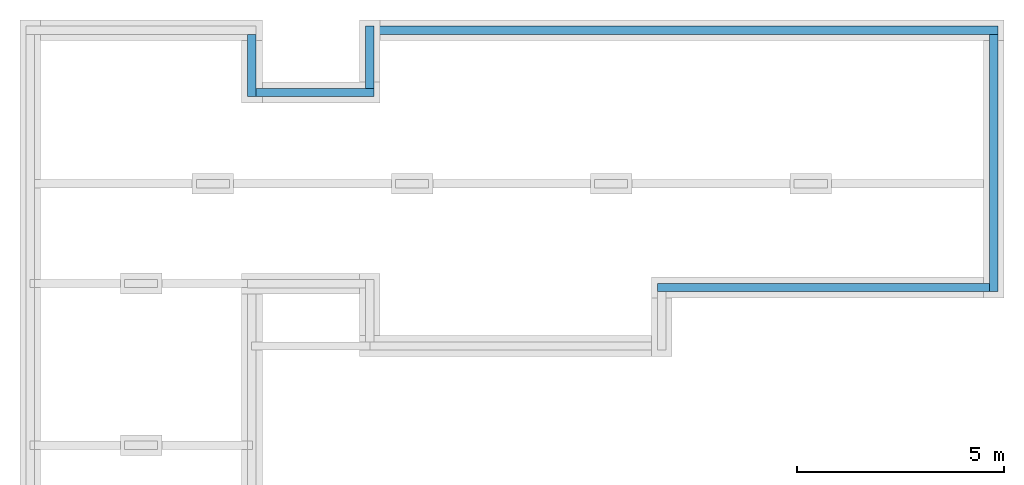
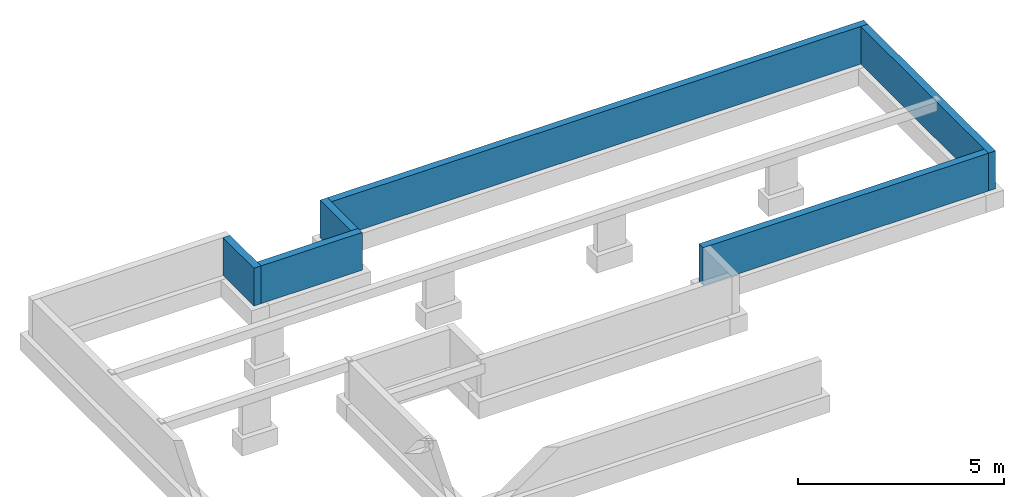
# One storey, part 2 of 2: 6 walls.
"""IFC2X3 building model written with IfcOpenShell, lengths in metres."""

import ifcopenshell
import ifcopenshell.guid

model = None  # the IFC model being written
_history = None  # IfcOwnerHistory: only IFC2X3 demands one
_inside = {}  # id of a spatial element -> (the spatial element, [elements in it])
_under = {}  # id of a project, library or spatial element -> (it, [spatial elements below it])
_declared = {}  # id of a project -> (the project, [libraries it declares])
_typed = {}  # id of a type object -> (the type object, [elements of that type])
_made_of = {}  # id of a material, layer set ... -> (it, [elements and type objects made of it])


def new_model(schema):
    """Start an empty IFC model of exactly this schema.

    Asked for "IFC4X3", IfcOpenShell would pick the latest addendum, in which some entities
    have other attributes; the version numbers below select the first issue.
    IFC2X3 requires an IfcOwnerHistory on every rooted entity: one is made here for all.
    """
    global model, _history
    if schema == "IFC4X3":
        model = ifcopenshell.file(schema_version=(4, 3, 0, 0))
    else:
        model = ifcopenshell.file(schema=schema)
    _inside.clear()
    _under.clear()
    _declared.clear()
    _typed.clear()
    _made_of.clear()
    _history = None
    if model.schema == "IFC2X3":
        org = make("IfcOrganization", Name="unknown")
        user = make(
            "IfcPersonAndOrganization",
            ThePerson=make("IfcPerson", FamilyName="unknown"),
            TheOrganization=org,
        )
        app = make(
            "IfcApplication",
            ApplicationDeveloper=org,
            Version="unknown",
            ApplicationFullName="unknown",
            ApplicationIdentifier="unknown",
        )
        _history = make(
            "IfcOwnerHistory",
            OwningUser=user,
            OwningApplication=app,
            ChangeAction="ADDED",
            CreationDate=0,
        )
    return model


def make(cls, **values):
    """One entity of the class cls with the attributes given. An attribute that is None is left unset."""
    return model.create_entity(
        cls, **{name: value for name, value in values.items() if value is not None}
    )


def entity(cls, *values):
    """Any entity or typed value of the class cls, its attributes in the order of the schema. None: left unset."""
    e = model.create_entity(cls)
    for i, value in enumerate(values):
        if value is not None:
            e[i] = value
    return e


def rooted(cls, **values):
    """An entity with a GlobalId (a new one), such as an element, a storey or a relation."""
    return make(cls, GlobalId=ifcopenshell.guid.new(), OwnerHistory=_history, **values)


def si_unit(unit_type, name, prefix=None):
    """IfcSIUnit, for example si_unit("LENGTHUNIT", "METRE", prefix="MILLI")."""
    return make("IfcSIUnit", UnitType=unit_type, Prefix=prefix, Name=name)


def converted_unit(unit_type, name, factor, base, dimensions=None, offset=None):
    """IfcConversionBasedUnit, such as the inch: factor (a typed value) times the base unit."""
    return make(
        "IfcConversionBasedUnit"
        if offset is None
        else "IfcConversionBasedUnitWithOffset",
        ConversionOffset=offset,
        Dimensions=None
        if dimensions is None
        else entity("IfcDimensionalExponents", *dimensions),
        UnitType=unit_type,
        Name=name,
        ConversionFactor=make(
            "IfcMeasureWithUnit", ValueComponent=factor, UnitComponent=base
        ),
    )


def derived_unit(unit_type, elements):
    """IfcDerivedUnit: a product of units, each with its exponent."""
    return make(
        "IfcDerivedUnit",
        Elements=[
            make("IfcDerivedUnitElement", Unit=unit, Exponent=power)
            for unit, power in elements
        ],
        UnitType=unit_type,
    )


def assignment(units):
    """IfcUnitAssignment: the units of a project."""
    return None if units is None else make("IfcUnitAssignment", Units=units)


def point(xyz):
    """IfcCartesianPoint."""
    return None if xyz is None else make("IfcCartesianPoint", Coordinates=xyz)


def direction(xyz):
    """IfcDirection."""
    return None if xyz is None else make("IfcDirection", DirectionRatios=xyz)


def frame(location, z_axis=None, x_axis=None):
    """IfcAxis2Placement3D, a coordinate frame: its origin and axes. An axis left out is left unset."""
    return make(
        "IfcAxis2Placement3D",
        Location=point(location),
        Axis=direction(z_axis),
        RefDirection=direction(x_axis),
    )


def frame_2d(location, x_axis=None):
    """IfcAxis2Placement2D, a coordinate frame in the plane: its origin and x axis."""
    return make(
        "IfcAxis2Placement2D", Location=point(location), RefDirection=direction(x_axis)
    )


def origin():
    """The frame at (0, 0, 0) with its axes left unset."""
    return frame((0.0, 0.0, 0.0))


def place(relative_to, where):
    """IfcLocalPlacement: puts the frame where relative to a parent placement (None: the world)."""
    return make(
        "IfcLocalPlacement", PlacementRelTo=relative_to, RelativePlacement=where
    )


def context(
    kind, dimensions, precision=None, world=None, true_north=None, identifier=None
):
    """IfcGeometricRepresentationContext, for example the 3D "Model" context."""
    return make(
        "IfcGeometricRepresentationContext",
        ContextIdentifier=identifier,
        ContextType=kind,
        CoordinateSpaceDimension=dimensions,
        Precision=precision,
        WorldCoordinateSystem=world,
        TrueNorth=true_north,
    )


def subcontext(parent, identifier, kind, view, scale=None):
    """IfcGeometricRepresentationSubContext, for example "Body" below "Model"."""
    return make(
        "IfcGeometricRepresentationSubContext",
        ContextIdentifier=identifier,
        ContextType=kind,
        ParentContext=parent,
        TargetScale=scale,
        TargetView=view,
    )


def project(units=None, contexts=None):
    """IfcProject with its units and contexts."""
    return rooted(
        "IfcProject",
        Name="project",
        RepresentationContexts=contexts,
        UnitsInContext=assignment(units),
    )


def spatial(cls, under=None, at=None, **own):
    """A site, building, storey or space (cls), placed at a placement, below another one or the project."""
    s = rooted(cls, ObjectPlacement=at, **own)
    if under is not None:
        _under.setdefault(under.id(), (under, []))[1].append(s)
    return s


def profile(cls, at=None, kind="AREA", **sizes):
    """A parametric profile (cls). Its sizes go by their IFC names, for example OverallWidth=200.0."""
    return make(cls, ProfileType=kind, Position=at, **sizes)


def rectangle(**sizes):
    """IfcRectangleProfileDef."""
    return profile("IfcRectangleProfileDef", **sizes)


def extrude(swept, where, along, depth):
    """IfcExtrudedAreaSolid: the profile swept, set in the frame where, extruded along a direction by depth."""
    return make(
        "IfcExtrudedAreaSolid",
        SweptArea=swept,
        Position=where,
        ExtrudedDirection=direction(along),
        Depth=depth,
    )


def shape(context_of_items, identifier, shape_type, items):
    """IfcShapeRepresentation: the items that make up one representation, for example the "Body"."""
    return make(
        "IfcShapeRepresentation",
        ContextOfItems=context_of_items,
        RepresentationIdentifier=identifier,
        RepresentationType=shape_type,
        Items=items,
    )


def material(Name=None, Category=None):
    """IfcMaterial."""
    return make("IfcMaterial", Name=Name, Category=Category)


def layer(
    of_material, thickness, ventilated=None, Name=None, Category=None, Priority=None
):
    """IfcMaterialLayer: one layer of a wall or slab, of a material (None: an air gap)."""
    return make(
        "IfcMaterialLayer",
        Material=of_material,
        LayerThickness=thickness,
        IsVentilated=ventilated,
        Name=Name,
        Category=Category,
        Priority=Priority,
    )


def layer_set(layers, Name=None):
    """IfcMaterialLayerSet."""
    return make("IfcMaterialLayerSet", MaterialLayers=layers, LayerSetName=Name)


def layer_usage(for_layer_set, set_direction, sense, offset, extent=None):
    """IfcMaterialLayerSetUsage: how a layer set lies in its element."""
    return make(
        "IfcMaterialLayerSetUsage",
        ForLayerSet=for_layer_set,
        LayerSetDirection=set_direction,
        DirectionSense=sense,
        OffsetFromReferenceLine=offset,
        ReferenceExtent=extent,
    )


def made_of(thing, what):
    """Note that an element or type object is made of a material, layer set ...; save() writes the relation."""
    if what is not None:
        _made_of.setdefault(what.id(), (what, []))[1].append(thing)
    return thing


def type_object(cls, material=None, **own):
    """A type object (cls), such as IfcWallType, which elements share."""
    return made_of(rooted(cls, **own), material)


def element(
    cls,
    number,
    at=None,
    inside=None,
    cuts=None,
    type_object=None,
    material=None,
    context=None,
    identifier="Body",
    shape_type=None,
    held_by="IfcProductDefinitionShape",
    body=None,
    shapes=None,
    **own,
):
    """One element of the class cls, such as IfcWall. Its Tag is "e" and its number.

    at: its placement. inside: the storey or other place that contains it. cuts: it is an
    opening in that element (IfcRelVoidsElement). A single representation is given by context,
    identifier, shape_type and body (its items); several are given by shapes. held_by: the class
    of the entity that holds the representations. save() writes the other relations.
    """
    e = rooted(cls, Tag="e%d" % number, ObjectPlacement=at, **own)
    if body is not None:
        shapes = [shape(context, identifier, shape_type, body)]
    if shapes is not None:
        e.Representation = make(held_by, Representations=shapes)
    if inside is not None:
        _inside.setdefault(inside.id(), (inside, []))[1].append(e)
    if cuts is not None:
        rooted(
            "IfcRelVoidsElement", RelatingBuildingElement=cuts, RelatedOpeningElement=e
        )
    if type_object is not None:
        _typed.setdefault(type_object.id(), (type_object, []))[1].append(e)
    return made_of(e, material)


def aggregate(whole, parts):
    """IfcRelAggregates: a whole, such as a stair, and the parts it consists of."""
    return rooted("IfcRelAggregates", RelatingObject=whole, RelatedObjects=parts)


def save(model, path):
    """Write the relations noted so far, then the file.

    IfcRelAggregates (storeys below a building ...), IfcRelContainedInSpatialStructure (elements
    in a storey), IfcRelDefinesByType, IfcRelAssociatesMaterial and IfcRelDeclares: one each for
    every whole, place, type object, material and project.
    """
    for whole, parts in _under.values():
        aggregate(whole, parts)
    for where, things in _inside.values():
        rooted(
            "IfcRelContainedInSpatialStructure",
            RelatedElements=things,
            RelatingStructure=where,
        )
    for kind, things in _typed.values():
        rooted("IfcRelDefinesByType", RelatedObjects=things, RelatingType=kind)
    for what, things in _made_of.values():
        rooted("IfcRelAssociatesMaterial", RelatedObjects=things, RelatingMaterial=what)
    for by, libraries in _declared.values():
        rooted("IfcRelDeclares", RelatingContext=by, RelatedDefinitions=libraries)
    model.write(path)


model = new_model("IFC2X3")

# Units and contexts
model_context = context("Model", 3, precision=1e-05, world=origin(), true_north=direction((6.12303176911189e-17, 1.0)))
body_context = subcontext(model_context, "Body", "Model", "MODEL_VIEW")
ifc_project = project(units=[si_unit("LENGTHUNIT", "METRE"), si_unit("AREAUNIT", "SQUARE_METRE"), si_unit("VOLUMEUNIT", "CUBIC_METRE"), converted_unit("PLANEANGLEUNIT", "DEGREE", entity("IfcRatioMeasure", 0.0174532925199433), si_unit("PLANEANGLEUNIT", "RADIAN"), dimensions=[0, 0, 0, 0, 0, 0, 0]), si_unit("MASSUNIT", "GRAM", prefix="KILO"), derived_unit("MASSDENSITYUNIT", [(si_unit("MASSUNIT", "GRAM", prefix="KILO"), 1), (si_unit("LENGTHUNIT", "METRE"), -3)]), si_unit("TIMEUNIT", "SECOND"), si_unit("FREQUENCYUNIT", "HERTZ"), si_unit("THERMODYNAMICTEMPERATUREUNIT", "DEGREE_CELSIUS"), derived_unit("THERMALTRANSMITTANCEUNIT", [(si_unit("MASSUNIT", "GRAM", prefix="KILO"), 1), (si_unit("THERMODYNAMICTEMPERATUREUNIT", "KELVIN"), -1), (si_unit("TIMEUNIT", "SECOND"), -3)]), derived_unit("VOLUMETRICFLOWRATEUNIT", [(si_unit("LENGTHUNIT", "METRE"), 3), (si_unit("TIMEUNIT", "SECOND"), -1)]), si_unit("ELECTRICCURRENTUNIT", "AMPERE"), si_unit("ELECTRICVOLTAGEUNIT", "VOLT"), si_unit("POWERUNIT", "WATT"), si_unit("FORCEUNIT", "NEWTON", prefix="KILO"), si_unit("ILLUMINANCEUNIT", "LUX"), si_unit("LUMINOUSFLUXUNIT", "LUMEN"), si_unit("LUMINOUSINTENSITYUNIT", "CANDELA"), derived_unit("USERDEFINED", [(si_unit("MASSUNIT", "GRAM", prefix="KILO"), -1), (si_unit("LENGTHUNIT", "METRE"), -2), (si_unit("TIMEUNIT", "SECOND"), 3), (si_unit("LUMINOUSFLUXUNIT", "LUMEN"), 1)]), derived_unit("LINEARVELOCITYUNIT", [(si_unit("LENGTHUNIT", "METRE"), 1), (si_unit("TIMEUNIT", "SECOND"), -1)]), si_unit("PRESSUREUNIT", "PASCAL"), derived_unit("USERDEFINED", [(si_unit("LENGTHUNIT", "METRE"), -2), (si_unit("MASSUNIT", "GRAM", prefix="KILO"), 1), (si_unit("TIMEUNIT", "SECOND"), -2)])], contexts=[model_context])

# Site, building, storey
site_placement = place(None, origin())
site = spatial("IfcSite", under=ifc_project, at=site_placement, Name="Default", CompositionType="ELEMENT")
building_placement = place(site_placement, origin())
building = spatial("IfcBuilding", under=site, at=building_placement, CompositionType="ELEMENT")
storey_placement = place(building_placement, frame((0.0, 0.0, -1.43)))
storey = spatial("IfcBuildingStorey", under=building, at=storey_placement, Name="1 - Fondations", CompositionType="ELEMENT", Elevation=-1.43)

# Walls
ifc_material = material(Name="Blocs béton manufacturés")
ifc_layer = layer(ifc_material, 0.2)
ifc_layer_set = layer_set([ifc_layer], Name="Mur de base:Parpaing 20 Enduit bitumineux")
ifc_layer_usage_1 = layer_usage(ifc_layer_set, "AXIS2", "NEGATIVE", 0.1)
wall_type = type_object("IfcWallType", Name="Mur de base:Parpaing 20 Enduit bitumineux", PredefinedType="STANDARD", material=ifc_layer_set)
wall_1_placement = place(storey_placement, frame((-4.4762224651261, 6.41805500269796, 0.0), z_axis=(0.0, 0.0, 1.0), x_axis=(0.0, -1.0, 0.0)))
element("IfcWallStandardCase", 1, at=wall_1_placement, inside=storey, type_object=wall_type, material=ifc_layer_usage_1, Name="Mur de base:Parpaing 20 Enduit bitumineux", ObjectType="Mur de base:Parpaing 20 Enduit bitumineux", context=body_context, shape_type="SweptSolid", body=[
    extrude(rectangle(XDim=1.5, YDim=0.2, at=frame_2d((0.750000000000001, 0.0), x_axis=(-1.0, 0.0))), origin(), (0.0, 0.0, 1.0), 1.11999999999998),
])
ifc_layer_usage_2 = layer_usage(ifc_layer_set, "AXIS2", "NEGATIVE", 0.1)
wall_2_placement = place(storey_placement, frame((-4.37622246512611, 5.01805500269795, 0.0)))
element("IfcWallStandardCase", 2, at=wall_2_placement, inside=storey, type_object=wall_type, material=ifc_layer_usage_2, Name="Mur de base:Parpaing 20 Enduit bitumineux", ObjectType="Mur de base:Parpaing 20 Enduit bitumineux", context=body_context, shape_type="SweptSolid", body=[
    extrude(rectangle(XDim=2.84, YDim=0.2, at=frame_2d((1.42, -8.32667268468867e-17), x_axis=(-1.0, 0.0))), origin(), (0.0, 0.0, 1.0), 1.11999999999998),
])
ifc_layer_usage_3 = layer_usage(ifc_layer_set, "AXIS2", "NEGATIVE", 0.1)
wall_3_placement = place(storey_placement, frame((-1.63622246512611, 5.11805500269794, 0.0), z_axis=(0.0, 0.0, 1.0), x_axis=(0.0, 1.0, 0.0)))
element("IfcWallStandardCase", 3, at=wall_3_placement, inside=storey, type_object=wall_type, material=ifc_layer_usage_3, Name="Mur de base:Parpaing 20 Enduit bitumineux", ObjectType="Mur de base:Parpaing 20 Enduit bitumineux", context=body_context, shape_type="SweptSolid", body=[
    extrude(rectangle(XDim=1.5, YDim=0.2, at=frame_2d((0.750000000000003, 0.0), x_axis=(-1.0, 0.0))), origin(), (0.0, 0.0, 1.0), 1.11999999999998),
])
ifc_layer_usage_4 = layer_usage(ifc_layer_set, "AXIS2", "NEGATIVE", 0.1)
wall_4_placement = place(storey_placement, frame((-1.5362224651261, 6.51805500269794, 0.0)))
element("IfcWallStandardCase", 4, at=wall_4_placement, inside=storey, type_object=wall_type, material=ifc_layer_usage_4, Name="Mur de base:Parpaing 20 Enduit bitumineux", ObjectType="Mur de base:Parpaing 20 Enduit bitumineux", context=body_context, shape_type="SweptSolid", body=[
    extrude(rectangle(XDim=15.04, YDim=0.2, at=frame_2d((7.52, -3.33066907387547e-16), x_axis=(-1.0, 0.0))), origin(), (0.0, 0.0, 1.0), 1.11999999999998),
])
ifc_layer_usage_5 = layer_usage(ifc_layer_set, "AXIS2", "NEGATIVE", 0.1)
wall_5_placement = place(storey_placement, frame((13.4037775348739, 6.4180550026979, 0.0), z_axis=(0.0, 0.0, 1.0), x_axis=(0.0, -1.0, 0.0)))
element("IfcWallStandardCase", 5, at=wall_5_placement, inside=storey, type_object=wall_type, material=ifc_layer_usage_5, Name="Mur de base:Parpaing 20 Enduit bitumineux", ObjectType="Mur de base:Parpaing 20 Enduit bitumineux", context=body_context, shape_type="SweptSolid", body=[
    extrude(rectangle(XDim=6.19999999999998, YDim=0.200000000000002, at=frame_2d((3.09999999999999, 0.0), x_axis=(-1.0, 0.0))), origin(), (0.0, 0.0, 1.0), 1.11999999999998),
])
ifc_layer_usage_6 = layer_usage(ifc_layer_set, "AXIS2", "NEGATIVE", 0.1)
wall_6_placement = place(storey_placement, frame((13.3037775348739, 0.318055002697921, 0.0), z_axis=(0.0, 0.0, 1.0), x_axis=(-1.0, 0.0, 0.0)))
element("IfcWallStandardCase", 6, at=wall_6_placement, inside=storey, type_object=wall_type, material=ifc_layer_usage_6, Name="Mur de base:Parpaing 20 Enduit bitumineux", ObjectType="Mur de base:Parpaing 20 Enduit bitumineux", context=body_context, shape_type="SweptSolid", body=[
    extrude(rectangle(XDim=8.00000000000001, YDim=0.2, at=frame_2d((4.0, 0.0), x_axis=(-1.0, 0.0))), origin(), (0.0, 0.0, 1.0), 1.11999999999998),
])

save(model, "model.ifc")
